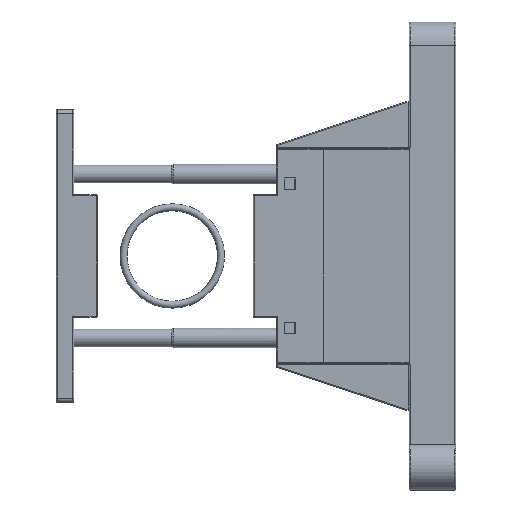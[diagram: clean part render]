
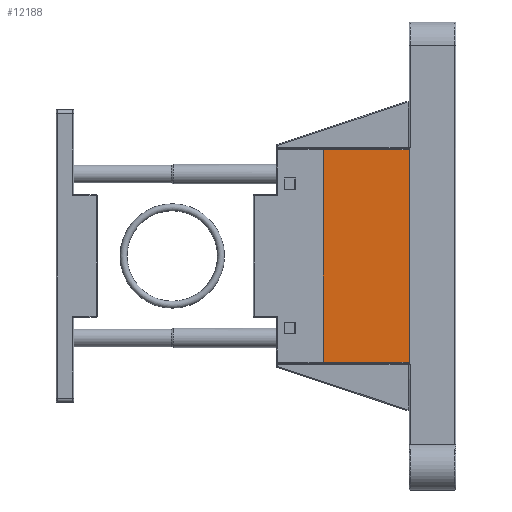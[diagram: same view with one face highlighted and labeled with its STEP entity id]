
A CAD part, top view. The second image highlights one B-rep face of the part: STEP entity #12188.
In plain terms, the highlighted planar face has unit normal (-0.039, 0, 0.999).
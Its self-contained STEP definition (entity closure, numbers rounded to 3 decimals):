
#5676=CARTESIAN_POINT('',(90.5,-27.323,6.));
#5677=VERTEX_POINT('',#5676);
#5705=CARTESIAN_POINT('',(90.495,-27.32,6.));
#5706=VERTEX_POINT('',#5705);
#5707=CARTESIAN_POINT('',(90.5,-27.323,6.));
#5708=CARTESIAN_POINT('',(90.498,-27.322,6.));
#5709=CARTESIAN_POINT('',(90.497,-27.321,6.));
#5710=CARTESIAN_POINT('',(90.495,-27.32,6.));
#5711=B_SPLINE_CURVE_WITH_KNOTS('',3,(#5707,#5708,#5709,#5710),.UNSPECIFIED.,.F.,.U.,(4,4),(0.087,0.088),.UNSPECIFIED.);
#5712=EDGE_CURVE('',#5677,#5706,#5711,.T.);
#5772=CARTESIAN_POINT('',(68.5,-27.25,5.15));
#5773=VERTEX_POINT('',#5772);
#5797=CARTESIAN_POINT('',(90.24,-27.25,5.99));
#5798=VERTEX_POINT('',#5797);
#5806=CARTESIAN_POINT('',(90.24,-27.25,5.99));
#5807=DIRECTION('',(-0.999,0.,-0.039));
#5808=VECTOR('',#5807,21.757);
#5809=LINE('',#5806,#5808);
#5810=EDGE_CURVE('',#5798,#5773,#5809,.T.);
#5852=CARTESIAN_POINT('',(90.24,-27.75,5.99));
#5853=DIRECTION('',(-0.039,0.,0.999));
#5854=DIRECTION('',(0.999,0.,0.039));
#5855=AXIS2_PLACEMENT_3D('',#5852,#5853,#5854);
#5856=ELLIPSE('',#5855,0.5,0.5);
#5857=EDGE_CURVE('',#5706,#5798,#5856,.T.);
#5983=CARTESIAN_POINT('',(90.5,27.323,6.));
#5984=VERTEX_POINT('',#5983);
#6010=CARTESIAN_POINT('',(90.5,27.323,6.));
#6011=DIRECTION('',(0.0,-1.0,0.0));
#6012=VECTOR('',#6011,54.645);
#6013=LINE('',#6010,#6012);
#6014=EDGE_CURVE('',#5677,#5984,#6013,.F.);
#8872=CARTESIAN_POINT('',(90.24,27.25,5.99));
#8873=VERTEX_POINT('',#8872);
#8891=CARTESIAN_POINT('',(68.5,27.25,5.15));
#8892=VERTEX_POINT('',#8891);
#8900=CARTESIAN_POINT('',(68.5,27.25,5.15));
#8901=DIRECTION('',(0.999,0.0,0.039));
#8902=VECTOR('',#8901,21.757);
#8903=LINE('',#8900,#8902);
#8904=EDGE_CURVE('',#8892,#8873,#8903,.T.);
#9057=CARTESIAN_POINT('',(90.495,27.32,6.));
#9058=VERTEX_POINT('',#9057);
#9066=CARTESIAN_POINT('',(90.495,27.32,6.));
#9067=CARTESIAN_POINT('',(90.497,27.321,6.));
#9068=CARTESIAN_POINT('',(90.498,27.322,6.));
#9069=CARTESIAN_POINT('',(90.5,27.323,6.));
#9070=B_SPLINE_CURVE_WITH_KNOTS('',3,(#9066,#9067,#9068,#9069),.UNSPECIFIED.,.F.,.U.,(4,4),(0.0,0.001),.UNSPECIFIED.);
#9071=EDGE_CURVE('',#9058,#5984,#9070,.T.);
#9106=CARTESIAN_POINT('',(90.24,27.75,5.99));
#9107=DIRECTION('',(-0.039,0.,0.999));
#9108=DIRECTION('',(0.999,0.,0.039));
#9109=AXIS2_PLACEMENT_3D('',#9106,#9107,#9108);
#9110=ELLIPSE('',#9109,0.5,0.5);
#9111=EDGE_CURVE('',#8873,#9058,#9110,.T.);
#12168=CARTESIAN_POINT('',(68.5,0.,5.15));
#12169=DIRECTION('',(-0.039,0.,0.999));
#12170=DIRECTION('',(0.999,0.,0.039));
#12171=AXIS2_PLACEMENT_3D('',#12168,#12169,#12170);
#12172=PLANE('',#12171);
#12173=ORIENTED_EDGE('',*,*,#5712,.F.);
#12174=ORIENTED_EDGE('',*,*,#6014,.T.);
#12175=ORIENTED_EDGE('',*,*,#9071,.F.);
#12176=ORIENTED_EDGE('',*,*,#9111,.F.);
#12177=ORIENTED_EDGE('',*,*,#8904,.F.);
#12178=CARTESIAN_POINT('',(68.5,-27.25,5.15));
#12179=DIRECTION('',(0.0,1.0,0.0));
#12180=VECTOR('',#12179,54.5);
#12181=LINE('',#12178,#12180);
#12182=EDGE_CURVE('',#5773,#8892,#12181,.T.);
#12183=ORIENTED_EDGE('',*,*,#12182,.F.);
#12184=ORIENTED_EDGE('',*,*,#5810,.F.);
#12185=ORIENTED_EDGE('',*,*,#5857,.F.);
#12186=EDGE_LOOP('',(#12173,#12174,#12175,#12176,#12177,#12183,#12184,#12185));
#12187=FACE_OUTER_BOUND('',#12186,.T.);
#12188=ADVANCED_FACE('',(#12187),#12172,.T.);
